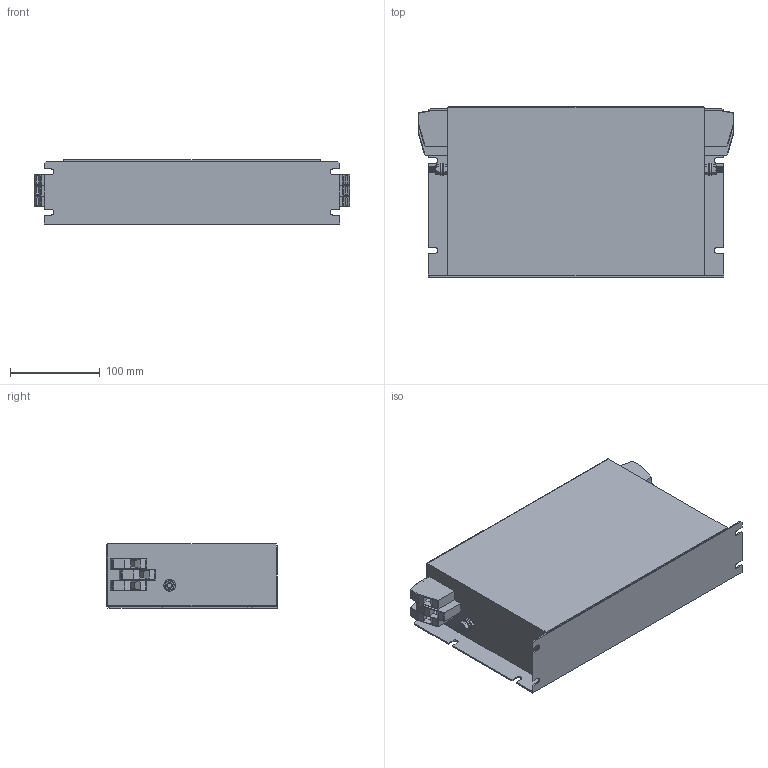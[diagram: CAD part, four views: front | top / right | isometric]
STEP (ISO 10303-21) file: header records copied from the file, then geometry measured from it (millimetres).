
FILE_DESCRIPTION (( 'STEP AP203' ), '1' );
FILE_NAME ('NF-R-42.STEP', '2021-03-11T18:33:52', ( '' ), ( '' ), 'SwSTEP 2.0', 'SolidWorks 2017', '' );
FILE_SCHEMA (( 'CONFIG_CONTROL_DESIGN' ));
Length unit declared in the file: millimetre
Products named in the file (7): NF-R-42; HDFK-16; hex nut style 1_am_B18.2.4.1M - Hex nut, Style 1,  M6 x 1 --D-N; hex screw_am_B18.6.7M - M6 x 1.0 x 16 Indented HHMS --16S; M6x16 Earth post; flat washer narrow_am_B18.22M - Plain washer, 6 mm, narrow
Assembly tree (13 placements, depth 3):
  NF-R-42
    NF-R-42
    M6x16 Earth post  x2
      flat washer narrow_am_B18.22M - Plain washer, 6 mm, narrow
      hex nut style 1_am_B18.2.4.1M - Hex nut, Style 1,  M6 x 1 --D-N
      hex screw_am_B18.6.7M - M6 x 1.0 x 16 Indented HHMS --16S
    HDFK-16  x6
Bounding box: 351.01 x 190 x 71.5 mm (x, y, z)
Volume: 3919741.6 mm3; surface area: 264898.1 mm2
Topology: 15 solids, 15 shells, 811 faces, 1913 edges, 1170 vertices
Faces by surface type: plane 471, cone 192, cylinder 146, sphere 2
Entity records: 9732 total; most frequent: CARTESIAN_POINT 1675, DIRECTION 1559, ORIENTED_EDGE 1454, EDGE_CURVE 727, AXIS2_PLACEMENT_3D 560, VERTEX_POINT 452, VECTOR 439, LINE 439
